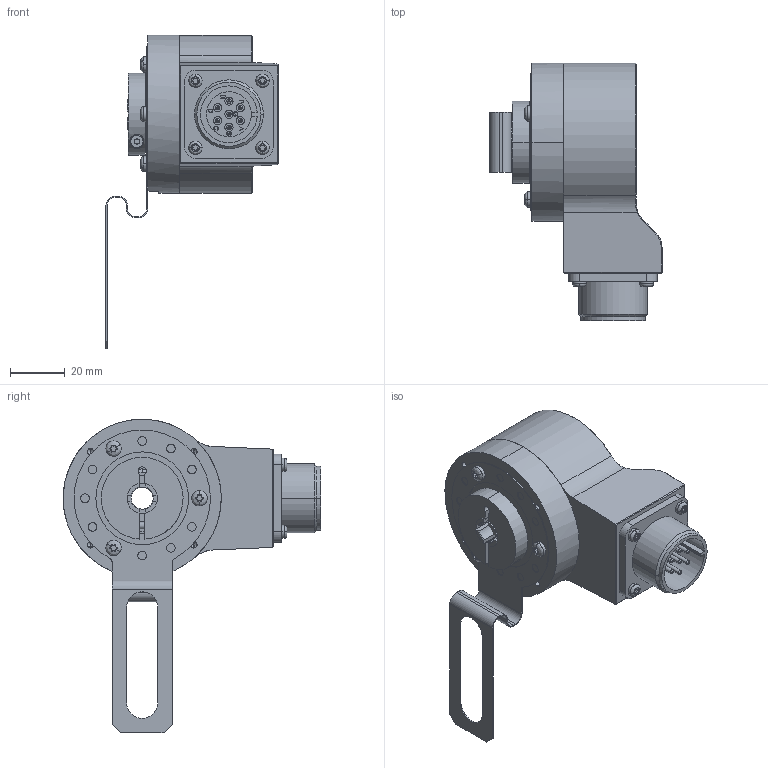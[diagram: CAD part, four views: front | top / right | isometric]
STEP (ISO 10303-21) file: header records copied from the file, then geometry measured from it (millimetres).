
FILE_DESCRIPTION (( 'STEP AP203' ), '1' );
FILE_NAME ('K58I.OXX.XXXXX.XH14508.6XRCH.step', '2025-12-08T13:32:50', ( '' ), ( '' ), 'SwSTEP 2.0', 'SolidWorks 2021', '' );
FILE_SCHEMA (( 'CONFIG_CONTROL_DESIGN' ));
Length unit declared in the file: millimetre
Products named in the file (1): K58I.OXX.XXXXX.XH14508.6XRCH
Bounding box: 63.09 x 94.5 x 115 mm (x, y, z)
Volume: 135586.3 mm3; surface area: 40841.9 mm2
Topology: 7 solids, 7 shells, 604 faces, 1518 edges, 966 vertices
Faces by surface type: cylinder 285, plane 199, bspline 56, cone 44, torus 20
Entity records: 23235 total; most frequent: CARTESIAN_POINT 8769, ORIENTED_EDGE 3008, DIRECTION 2980, EDGE_CURVE 1504, AXIS2_PLACEMENT_3D 1133, VERTEX_POINT 966, LINE 714, VECTOR 714
